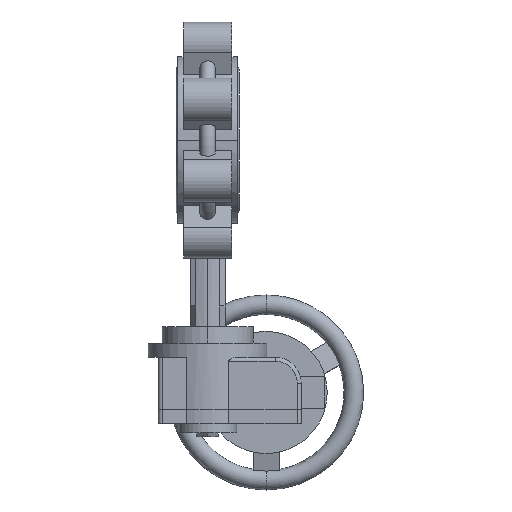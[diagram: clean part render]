
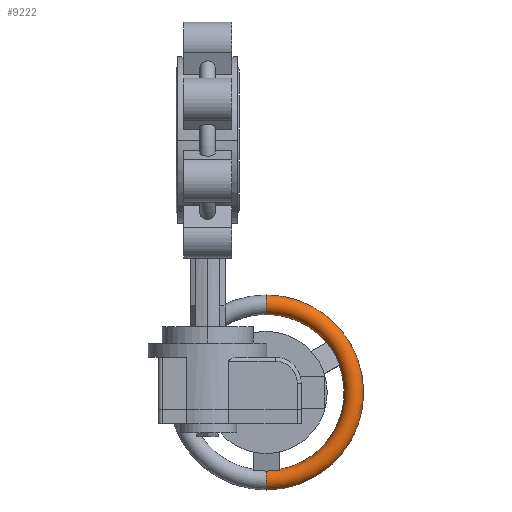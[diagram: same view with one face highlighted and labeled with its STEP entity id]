
A CAD part, left-side view. The second image highlights one B-rep face of the part: STEP entity #9222.
In plain terms, the highlighted toroidal (fillet/blend) face has major radius 67.5 mm and minor radius 7.5 mm.
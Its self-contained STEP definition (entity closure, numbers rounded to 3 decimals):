
#107 = EDGE_CURVE ( 'NONE', #769, #2331, #8886, .T. ) ;
#151 = DIRECTION ( 'NONE',  ( 0., 0., -1. ) ) ;
#253 = DIRECTION ( 'NONE',  ( -1., 0., 0. ) ) ;
#263 = CARTESIAN_POINT ( 'NONE',  ( -160.626, -51.354, 74.43 ) ) ;
#269 = TOROIDAL_SURFACE ( 'NONE', #6049, 67.5, 7.5 ) ;
#316 = EDGE_CURVE ( 'NONE', #2564, #8800, #6172, .T. ) ;
#330 = CARTESIAN_POINT ( 'NONE',  ( -162.5, -13., 28. ) ) ;
#484 = CARTESIAN_POINT ( 'NONE',  ( -162.5, 54.5, 28. ) ) ;
#516 = CARTESIAN_POINT ( 'NONE',  ( -159.921, 47.457, 31.343 ) ) ;
#731 = AXIS2_PLACEMENT_3D ( 'NONE', #5287, #151, #253 ) ;
#769 = VERTEX_POINT ( 'NONE', #8536 ) ;
#816 = AXIS2_PLACEMENT_3D ( 'NONE', #8859, #1116, #10521 ) ;
#876 = CARTESIAN_POINT ( 'NONE',  ( -161.319, -51.286, 74.314 ) ) ;
#1051 = CARTESIAN_POINT ( 'NONE',  ( -162.023, -51.246, 74.245 ) ) ;
#1059 = CARTESIAN_POINT ( 'NONE',  ( -161.552, 46.218, 38. ) ) ;
#1116 = DIRECTION ( 'NONE',  ( -1., 0., 0. ) ) ;
#1173 = B_SPLINE_CURVE_WITH_KNOTS ( 'NONE', 3,
 ( #3728, #2747, #1051, #7051, #876, #263, #2808, #10616 ),
 .UNSPECIFIED., .F., .F.,
 ( 4, 2, 2, 4 ),
 ( 0.047, 0.048, 0.048, 0.05 ),
 .UNSPECIFIED. ) ;
#1245 = CARTESIAN_POINT ( 'NONE',  ( -159.729, -34.189, 84.701 ) ) ;
#1329 = AXIS2_PLACEMENT_3D ( 'NONE', #6740, #2439, #3467 ) ;
#1493 = CIRCLE ( 'NONE', #6578, 60. ) ;
#1596 = CARTESIAN_POINT ( 'NONE',  ( -162.5, -33.92, 84.235 ) ) ;
#1917 = B_SPLINE_CURVE_WITH_KNOTS ( 'NONE', 3,
 ( #6258, #10713, #6421, #7097, #8948, #4679, #8099, #10773 ),
 .UNSPECIFIED., .F., .F.,
 ( 4, 2, 2, 4 ),
 ( 0., 0.01, 0.015, 0.02 ),
 .UNSPECIFIED. ) ;
#1932 = CARTESIAN_POINT ( 'NONE',  ( -162.5, 62., 28. ) ) ;
#1994 = CARTESIAN_POINT ( 'NONE',  ( -162.5, -88., 28. ) ) ;
#2331 = VERTEX_POINT ( 'NONE', #1932 ) ;
#2439 = DIRECTION ( 'NONE',  ( -1., 0., 0. ) ) ;
#2534 = CIRCLE ( 'NONE', #731, 7.5 ) ;
#2564 = VERTEX_POINT ( 'NONE', #5827 ) ;
#2621 = DIRECTION ( 'NONE',  ( -1., 0., 0. ) ) ;
#2626 = CARTESIAN_POINT ( 'NONE',  ( -160.626, -34.033, 84.43 ) ) ;
#2641 = CARTESIAN_POINT ( 'NONE',  ( -162.5, 46.161, 38. ) ) ;
#2747 = CARTESIAN_POINT ( 'NONE',  ( -162.262, -51.241, 74.235 ) ) ;
#2758 = CARTESIAN_POINT ( 'NONE',  ( -160.171, 46.521, 38. ) ) ;
#2808 = CARTESIAN_POINT ( 'NONE',  ( -160.171, -51.421, 74.547 ) ) ;
#3094 = B_SPLINE_CURVE_WITH_KNOTS ( 'NONE', 3,
 ( #7465, #9164, #516, #8142 ),
 .UNSPECIFIED., .F., .F.,
 ( 4, 4 ),
 ( 0., 0.01 ),
 .UNSPECIFIED. ) ;
#3160 = EDGE_CURVE ( 'NONE', #10744, #8388, #2534, .T. ) ;
#3268 = ORIENTED_EDGE ( 'NONE', *, *, #6702, .T. ) ;
#3317 = ORIENTED_EDGE ( 'NONE', *, *, #107, .T. ) ;
#3467 = DIRECTION ( 'NONE',  ( 0., -1., 0. ) ) ;
#3624 = CARTESIAN_POINT ( 'NONE',  ( -161.319, 46.252, 38. ) ) ;
#3728 = CARTESIAN_POINT ( 'NONE',  ( -162.5, -51.241, 74.235 ) ) ;
#3791 = DIRECTION ( 'NONE',  ( -1., 0., 0. ) ) ;
#4138 = CARTESIAN_POINT ( 'NONE',  ( -159.729, 46.699, 38. ) ) ;
#4274 = EDGE_LOOP ( 'NONE', ( #6686, #4322, #9163, #3268, #9278, #6094, #7648, #5525, #6233, #3317 ) ) ;
#4282 = EDGE_CURVE ( 'NONE', #8954, #769, #3094, .T. ) ;
#4322 = ORIENTED_EDGE ( 'NONE', *, *, #3160, .F. ) ;
#4392 = CARTESIAN_POINT ( 'NONE',  ( -161.552, -33.949, 84.284 ) ) ;
#4679 = CARTESIAN_POINT ( 'NONE',  ( -159.841, -37.291, 83.421 ) ) ;
#5287 = CARTESIAN_POINT ( 'NONE',  ( -162.5, -80.5, 28. ) ) ;
#5525 = ORIENTED_EDGE ( 'NONE', *, *, #7374, .T. ) ;
#5827 = CARTESIAN_POINT ( 'NONE',  ( -162.5, -33.92, 84.235 ) ) ;
#6045 = CARTESIAN_POINT ( 'NONE',  ( -159.729, 46.699, 38. ) ) ;
#6049 = AXIS2_PLACEMENT_3D ( 'NONE', #330, #3791, #7227 ) ;
#6094 = ORIENTED_EDGE ( 'NONE', *, *, #316, .F. ) ;
#6172 = B_SPLINE_CURVE_WITH_KNOTS ( 'NONE', 3,
 ( #1596, #8490, #6865, #4392, #10312, #2626, #9410, #7595 ),
 .UNSPECIFIED., .F., .F.,
 ( 4, 2, 2, 4 ),
 ( 0.047, 0.048, 0.048, 0.05 ),
 .UNSPECIFIED. ) ;
#6179 = CARTESIAN_POINT ( 'NONE',  ( -162.5, -51.241, 74.235 ) ) ;
#6217 = CARTESIAN_POINT ( 'NONE',  ( -162.262, 46.161, 38. ) ) ;
#6233 = ORIENTED_EDGE ( 'NONE', *, *, #4282, .T. ) ;
#6258 = CARTESIAN_POINT ( 'NONE',  ( -159.729, -51.51, 74.701 ) ) ;
#6421 = CARTESIAN_POINT ( 'NONE',  ( -159.921, -46.133, 78.68 ) ) ;
#6578 = AXIS2_PLACEMENT_3D ( 'NONE', #11000, #2621, #6858 ) ;
#6598 = DIRECTION ( 'NONE',  ( 0., -1., 0. ) ) ;
#6686 = ORIENTED_EDGE ( 'NONE', *, *, #8580, .F. ) ;
#6702 = EDGE_CURVE ( 'NONE', #10935, #7298, #1173, .T. ) ;
#6740 = CARTESIAN_POINT ( 'NONE',  ( -162.5, -13., 28. ) ) ;
#6858 = DIRECTION ( 'NONE',  ( 0., -1., 0. ) ) ;
#6865 = CARTESIAN_POINT ( 'NONE',  ( -162.023, -33.926, 84.245 ) ) ;
#7051 = CARTESIAN_POINT ( 'NONE',  ( -161.552, -51.269, 74.284 ) ) ;
#7097 = CARTESIAN_POINT ( 'NONE',  ( -159.921, -41.797, 81.185 ) ) ;
#7227 = DIRECTION ( 'NONE',  ( 0., -1., 0. ) ) ;
#7298 = VERTEX_POINT ( 'NONE', #9148 ) ;
#7363 = CARTESIAN_POINT ( 'NONE',  ( -162.5, 46.161, 38. ) ) ;
#7374 = EDGE_CURVE ( 'NONE', #8412, #8954, #10735, .T. ) ;
#7465 = CARTESIAN_POINT ( 'NONE',  ( -159.729, 46.699, 38. ) ) ;
#7475 = CIRCLE ( 'NONE', #1329, 75. ) ;
#7595 = CARTESIAN_POINT ( 'NONE',  ( -159.729, -34.189, 84.701 ) ) ;
#7648 = ORIENTED_EDGE ( 'NONE', *, *, #9734, .T. ) ;
#7774 = CARTESIAN_POINT ( 'NONE',  ( -162.023, 46.172, 38. ) ) ;
#8099 = CARTESIAN_POINT ( 'NONE',  ( -159.793, -35.752, 84.09 ) ) ;
#8142 = CARTESIAN_POINT ( 'NONE',  ( -159.921, 47.457, 28. ) ) ;
#8208 = CIRCLE ( 'NONE', #816, 60. ) ;
#8254 = EDGE_CURVE ( 'NONE', #10744, #10935, #1493, .T. ) ;
#8388 = VERTEX_POINT ( 'NONE', #1994 ) ;
#8412 = VERTEX_POINT ( 'NONE', #7363 ) ;
#8490 = CARTESIAN_POINT ( 'NONE',  ( -162.262, -33.92, 84.235 ) ) ;
#8536 = CARTESIAN_POINT ( 'NONE',  ( -159.921, 47.457, 28. ) ) ;
#8580 = EDGE_CURVE ( 'NONE', #8388, #2331, #7475, .T. ) ;
#8800 = VERTEX_POINT ( 'NONE', #1245 ) ;
#8859 = CARTESIAN_POINT ( 'NONE',  ( -162.5, -13., 28. ) ) ;
#8886 = CIRCLE ( 'NONE', #10153, 7.5 ) ;
#8948 = CARTESIAN_POINT ( 'NONE',  ( -159.905, -40.318, 81.966 ) ) ;
#8954 = VERTEX_POINT ( 'NONE', #4138 ) ;
#9148 = CARTESIAN_POINT ( 'NONE',  ( -159.729, -51.51, 74.701 ) ) ;
#9163 = ORIENTED_EDGE ( 'NONE', *, *, #8254, .T. ) ;
#9164 = CARTESIAN_POINT ( 'NONE',  ( -159.857, 47.204, 34.677 ) ) ;
#9170 = CARTESIAN_POINT ( 'NONE',  ( -162.5, -73., 28. ) ) ;
#9222 = ADVANCED_FACE ( 'NONE', ( #10628 ), #269, .T. ) ;
#9278 = ORIENTED_EDGE ( 'NONE', *, *, #9978, .T. ) ;
#9410 = CARTESIAN_POINT ( 'NONE',  ( -160.171, -34.1, 84.547 ) ) ;
#9656 = CARTESIAN_POINT ( 'NONE',  ( -160.626, 46.387, 38. ) ) ;
#9734 = EDGE_CURVE ( 'NONE', #2564, #8412, #8208, .T. ) ;
#9978 = EDGE_CURVE ( 'NONE', #7298, #8800, #1917, .T. ) ;
#10153 = AXIS2_PLACEMENT_3D ( 'NONE', #484, #10894, #6598 ) ;
#10312 = CARTESIAN_POINT ( 'NONE',  ( -161.319, -33.966, 84.314 ) ) ;
#10521 = DIRECTION ( 'NONE',  ( 0., -1., 0. ) ) ;
#10616 = CARTESIAN_POINT ( 'NONE',  ( -159.729, -51.51, 74.701 ) ) ;
#10628 = FACE_OUTER_BOUND ( 'NONE', #4274, .T. ) ;
#10713 = CARTESIAN_POINT ( 'NONE',  ( -159.857, -48.888, 76.797 ) ) ;
#10735 = B_SPLINE_CURVE_WITH_KNOTS ( 'NONE', 3,
 ( #2641, #6217, #7774, #1059, #3624, #9656, #2758, #6045 ),
 .UNSPECIFIED., .F., .F.,
 ( 4, 2, 2, 4 ),
 ( 0.047, 0.048, 0.048, 0.05 ),
 .UNSPECIFIED. ) ;
#10744 = VERTEX_POINT ( 'NONE', #9170 ) ;
#10773 = CARTESIAN_POINT ( 'NONE',  ( -159.729, -34.189, 84.701 ) ) ;
#10894 = DIRECTION ( 'NONE',  ( 0., 0., 1. ) ) ;
#10935 = VERTEX_POINT ( 'NONE', #6179 ) ;
#11000 = CARTESIAN_POINT ( 'NONE',  ( -162.5, -13., 28. ) ) ;
